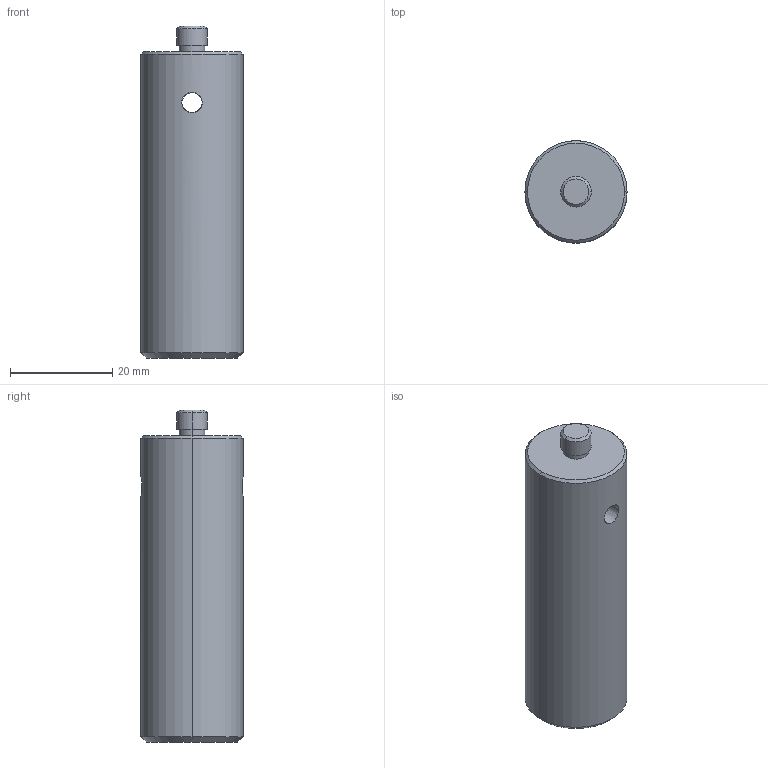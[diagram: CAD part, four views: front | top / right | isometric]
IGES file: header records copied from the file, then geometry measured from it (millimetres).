
Global section: file name: No Iges File Name specified; native system: AutoDesk Inventor R11.0; preprocessor: AutoDesk Inventor Iges Exporter R11.0; author: No Author specified; organization: No Organization specified; date: 20071207.173631; units: millimetre
Bounding box: 20 x 20 x 65 mm (x, y, z)
Volume: 18690.2 mm3; surface area: 4666.8 mm2
Topology: 1 solids, 1 shells, 18 faces, 38 edges, 24 vertices
Faces by surface type: cylinder 6, cone 6, plane 4, revolution 2
